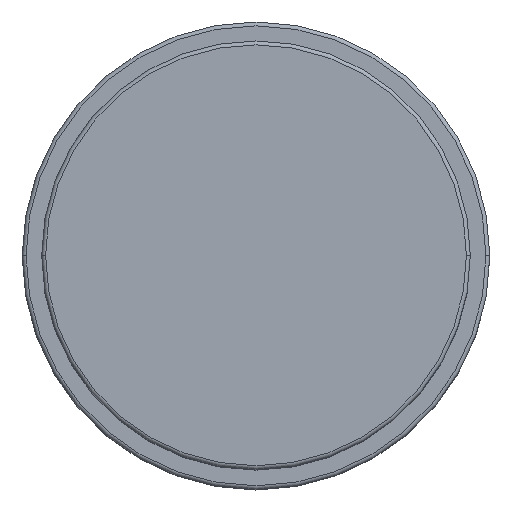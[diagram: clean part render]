
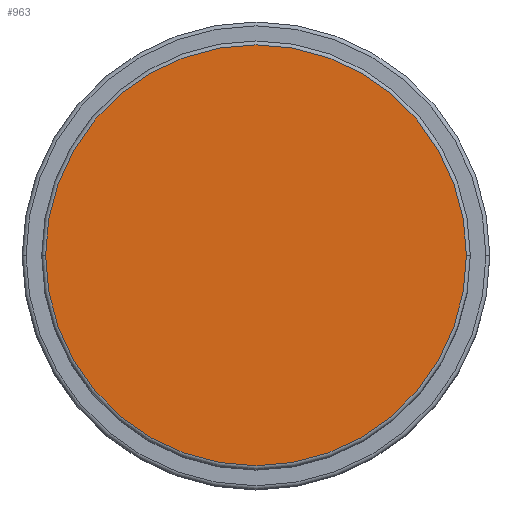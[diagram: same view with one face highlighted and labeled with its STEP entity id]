
A CAD part, top view. The second image highlights one B-rep face of the part: STEP entity #963.
In plain terms, the highlighted planar face has unit normal (0, 0, 1).
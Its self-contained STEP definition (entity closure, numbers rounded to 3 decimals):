
#51 = CIRCLE ( 'NONE', #660, 27. ) ;
#144 = CIRCLE ( 'NONE', #1193, 27. ) ;
#231 = EDGE_LOOP ( 'NONE', ( #780, #601 ) ) ;
#260 = CARTESIAN_POINT ( 'NONE',  ( 0., 0., 66. ) ) ;
#340 = CARTESIAN_POINT ( 'NONE',  ( 27., 0., 66. ) ) ;
#347 = DIRECTION ( 'NONE',  ( 1., 0., 0. ) ) ;
#601 = ORIENTED_EDGE ( 'NONE', *, *, #656, .T. ) ;
#654 = DIRECTION ( 'NONE',  ( 1., 0., 0. ) ) ;
#656 = EDGE_CURVE ( 'NONE', #1682, #1854, #144, .T. ) ;
#658 = DIRECTION ( 'NONE',  ( 0., 0., 1. ) ) ;
#660 = AXIS2_PLACEMENT_3D ( 'NONE', #1102, #1853, #654 ) ;
#664 = CARTESIAN_POINT ( 'NONE',  ( 0., 0., 66. ) ) ;
#689 = DIRECTION ( 'NONE',  ( 0., 0., 1. ) ) ;
#702 = DIRECTION ( 'NONE',  ( 1., 0., 0. ) ) ;
#775 = AXIS2_PLACEMENT_3D ( 'NONE', #260, #689, #702 ) ;
#780 = ORIENTED_EDGE ( 'NONE', *, *, #1821, .T. ) ;
#914 = FACE_OUTER_BOUND ( 'NONE', #231, .T. ) ;
#963 = ADVANCED_FACE ( 'NONE', ( #914 ), #1159, .T. ) ;
#1102 = CARTESIAN_POINT ( 'NONE',  ( 0., 0., 66. ) ) ;
#1159 = PLANE ( 'NONE',  #775 ) ;
#1193 = AXIS2_PLACEMENT_3D ( 'NONE', #664, #658, #347 ) ;
#1321 = CARTESIAN_POINT ( 'NONE',  ( -27., 0., 66. ) ) ;
#1682 = VERTEX_POINT ( 'NONE', #1321 ) ;
#1821 = EDGE_CURVE ( 'NONE', #1854, #1682, #51, .T. ) ;
#1853 = DIRECTION ( 'NONE',  ( 0., 0., 1. ) ) ;
#1854 = VERTEX_POINT ( 'NONE', #340 ) ;
